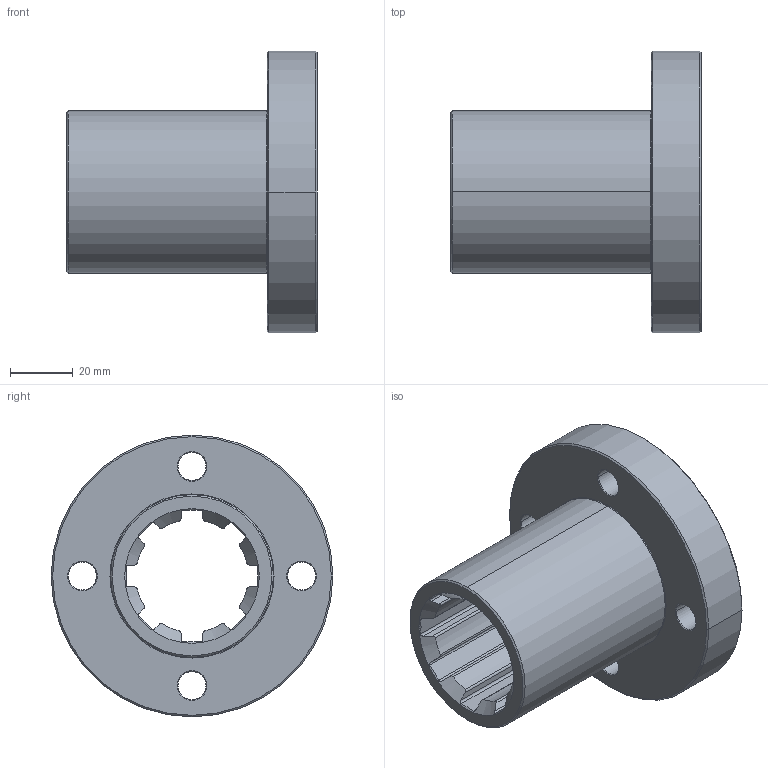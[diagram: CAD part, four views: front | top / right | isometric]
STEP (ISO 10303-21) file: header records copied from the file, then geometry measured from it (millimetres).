
FILE_DESCRIPTION((''),'2;1');
FILE_NAME('396-036-8000_PRT','2024-03-24T',('Brieden'),('ib-brieden'),'PRO/ENGINEER BY PARAMETRIC TECHNOLOGY CORPORATION, 2010160','PRO/ENGINEER BY PARAMETRIC TECHNOLOGY CORPORATION, 2010160','');
FILE_SCHEMA(('AUTOMOTIVE_DESIGN { 1 0 10303 214 1 1 1 1 }'));
Length unit declared in the file: millimetre
Products named in the file (1): 396-036-8000_PRT
Bounding box: 80 x 90 x 90 mm (x, y, z)
Volume: 133674.1 mm3; surface area: 38597.5 mm2
Topology: 1 solids, 1 shells, 114 faces, 302 edges, 192 vertices
Faces by surface type: cylinder 54, plane 28, cone 28, torus 4
Entity records: 5098 total; most frequent: CARTESIAN_POINT 1442, ORIENTED_EDGE 604, DIRECTION 494, PRESENTATION_STYLE_ASSIGNMENT 303, STYLED_ITEM 303, CURVE_STYLE 302, EDGE_CURVE 302, AXIS2_PLACEMENT_3D 194
